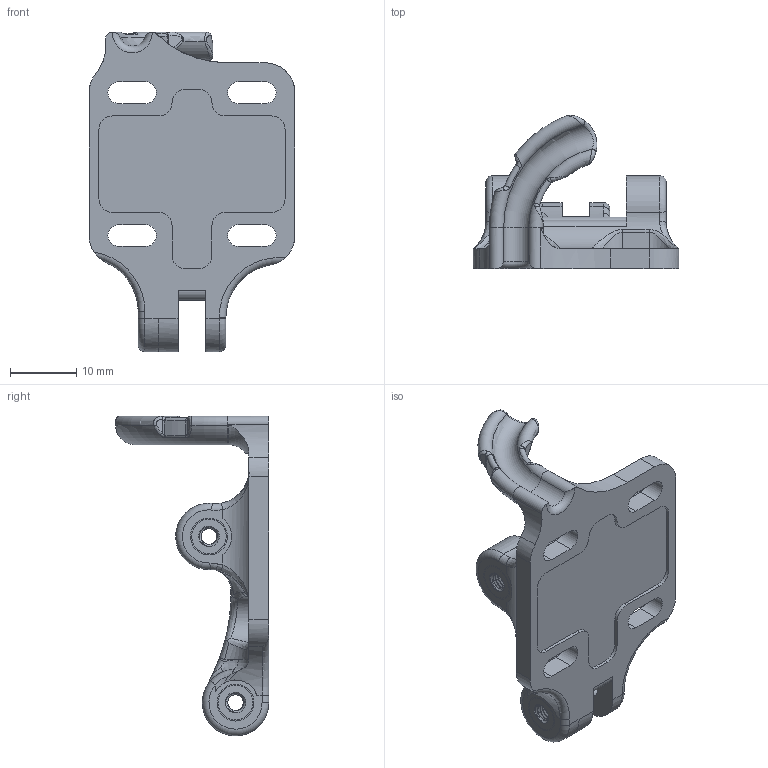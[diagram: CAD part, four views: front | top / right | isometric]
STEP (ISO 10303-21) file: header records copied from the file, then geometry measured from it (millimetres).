
FILE_DESCRIPTION(('CATIA V5 STEP Exchange'),'2;1');
FILE_NAME('E:\Dropbox\3D Printer Fan Duct Designs\1.) Artillery Sidewinder X1\3D Models\5015 Double Ducts\VOLCANO\Volcano ALL Step Files\Insert\LH Fan Bracket.stp','2021-03-06T11:15:10+00:00',('none'),('none'),'CATIA Version 5 Release 20 SP 1 (IN-10)','CATIA V5 STEP AP214','none');
FILE_SCHEMA(('AUTOMOTIVE_DESIGN { 1 0 10303 214 1 1 1 1 }'));
Products named in the file (1): ADATTATORE_X_DOPPIA_5015
Bounding box: 31 x 23.1 x 48.1 mm (x, y, z)
Volume: 6133.5 mm3; surface area: 4714.1 mm2
Topology: 3 solids, 3 shells, 1167 faces, 3143 edges, 1992 vertices
Faces by surface type: bspline 761, cylinder 298, plane 62, torus 25, cone 20, extrusion 1
Entity records: 40857 total; most frequent: CARTESIAN_POINT 20476, ORIENTED_EDGE 6286, EDGE_CURVE 3143, VERTEX_POINT 1992, DIRECTION 1651, EDGE_LOOP 1197, ADVANCED_FACE 1167, FACE_OUTER_BOUND 1167
